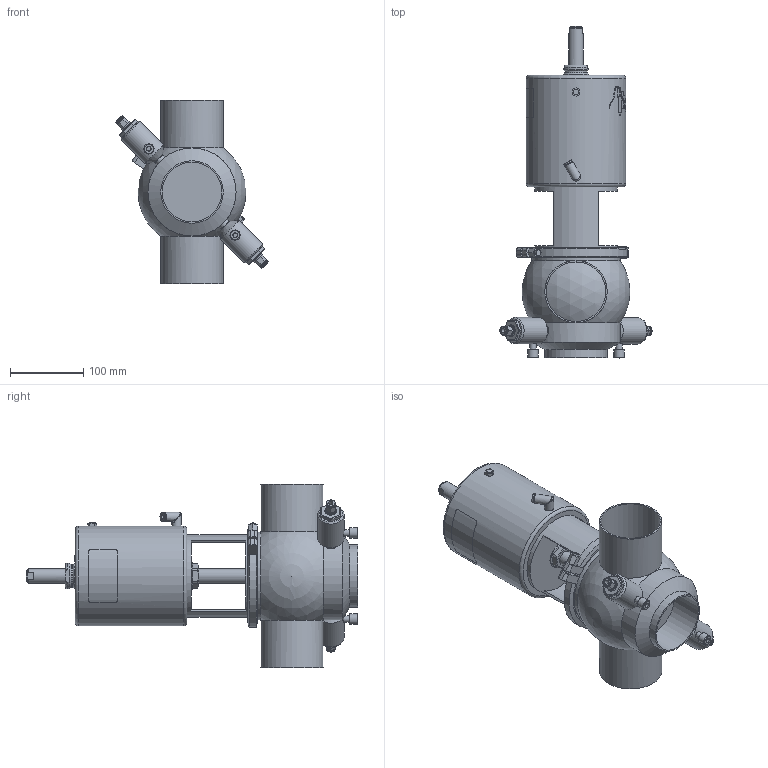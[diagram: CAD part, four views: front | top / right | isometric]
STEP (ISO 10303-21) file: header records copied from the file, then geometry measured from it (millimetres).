
FILE_DESCRIPTION (( 'STEP AP214' ), '1' );
FILE_NAME ('INNOVA D T W DIN 080 T3 AS NC_10.246.16.0002.STEP', '2024-08-08T09:15:54', ( '' ), ( '' ), 'SwSTEP 2.0', 'SolidWorks 2023', '' );
FILE_SCHEMA (( 'AUTOMOTIVE_DESIGN' ));
Length unit declared in the file: millimetre
Products named in the file (5): 10.246.15.0002_DIN 080; 10.240.15.0001_DN 080; INNOVA D T W DIN 080 T3 AS NC_10.246.16.0002; 10.240.15.0014_T3 AS P0; 10.240.15.0010_DN 080
Assembly tree (4 placements, depth 2):
  INNOVA D T W DIN 080 T3 AS NC_10.246.16.0002
    10.246.15.0002_DIN 080
    10.240.15.0010_DN 080
    10.240.15.0014_T3 AS P0
    10.240.15.0001_DN 080
Bounding box: 207.32 x 452 x 250 mm (x, y, z)
Volume: 4303202.7 mm3; surface area: 379639.8 mm2
Topology: 4 solids, 4 shells, 425 faces, 1080 edges, 700 vertices
Faces by surface type: plane 225, cylinder 85, bspline 80, cone 27, sphere 4, torus 4
Full cylindrical faces by diameter (mm): 6 x4, 6.15 x1, 8 x3, 8.5 x1, 9 x2, 10 x2, 10.5 x1, 12 x4, 12.5 x3, 14 x4, 15 x2, 16 x1, 20 x2, 31 x1, 34.5 x2, 36 x2, 36.5 x1, 81 x3, 85 x3, 113 x1, 120 x2, 132 x2, 136 x1
Entity records: 23118 total; most frequent: CARTESIAN_POINT 12063, ORIENTED_EDGE 1944, DIRECTION 1621, EDGE_CURVE 972, VERTEX_POINT 671, AXIS2_PLACEMENT_3D 612, EDGE_LOOP 549, FACE_OUTER_BOUND 479
